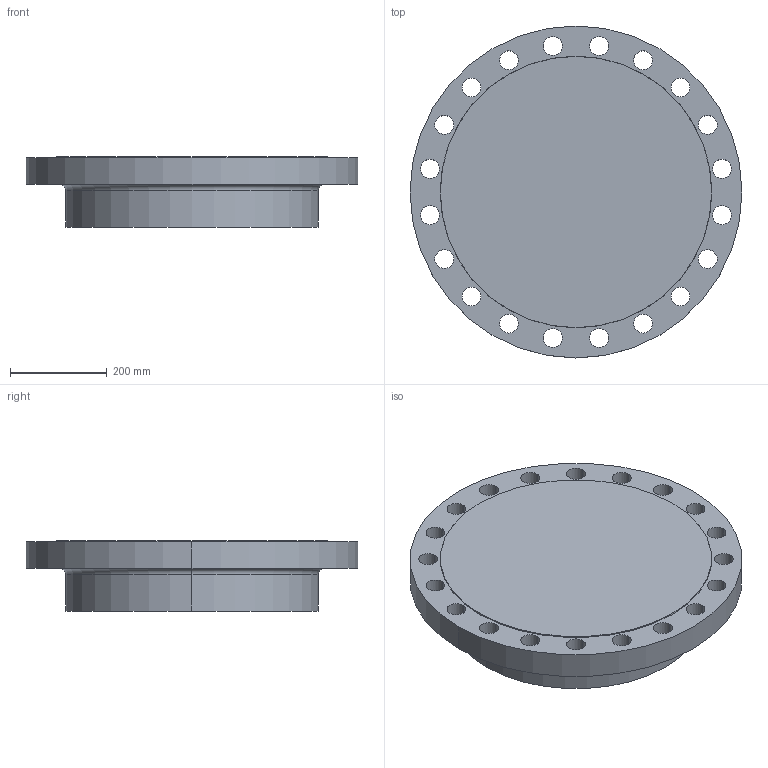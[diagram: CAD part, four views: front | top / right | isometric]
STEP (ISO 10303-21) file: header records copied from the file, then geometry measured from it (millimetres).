
FILE_DESCRIPTION (( 'STEP AP214' ), '1' );
FILE_NAME ('PN40 DN450 Type 21(i) - Type B Face.STEP', '2018-12-29T04:53:57', ( '' ), ( '' ), 'SwSTEP 2.0', 'SolidWorks 2019', '' );
FILE_SCHEMA (( 'AUTOMOTIVE_DESIGN' ));
Length unit declared in the file: millimetre
Products named in the file (1): PN40 DN450 Type 21(i) - Type B Face
Bounding box: 685 x 685 x 145 mm (x, y, z)
Volume: 38332177.9 mm3; surface area: 1081291.4 mm2
Topology: 1 solids, 1 shells, 52 faces, 142 edges, 94 vertices
Faces by surface type: cylinder 44, plane 4, torus 2, cone 2
Entity records: 1820 total; most frequent: DIRECTION 344, CARTESIAN_POINT 289, ORIENTED_EDGE 284, AXIS2_PLACEMENT_3D 149, EDGE_CURVE 142, CIRCLE 96, EDGE_LOOP 94, VERTEX_POINT 94
